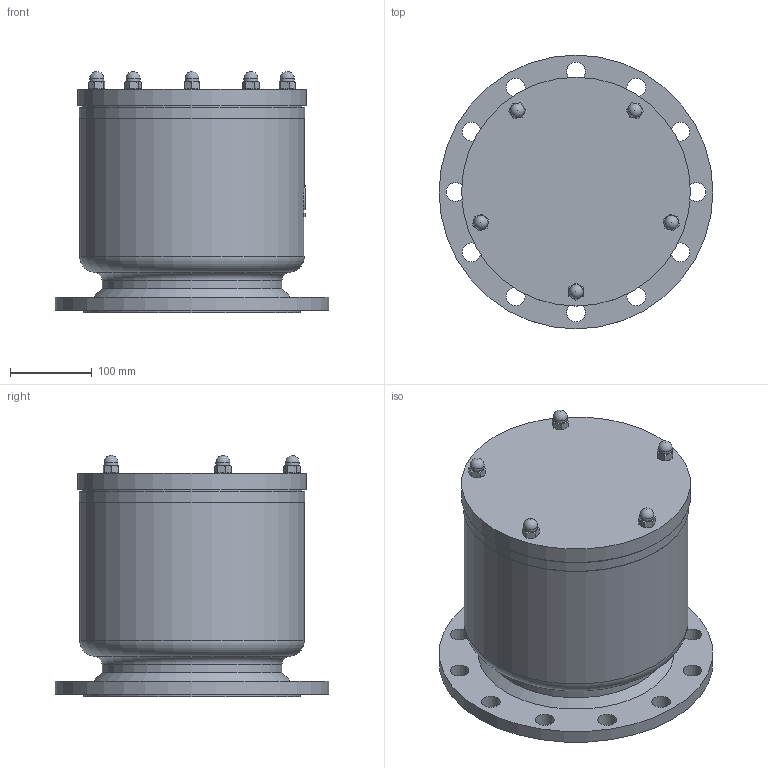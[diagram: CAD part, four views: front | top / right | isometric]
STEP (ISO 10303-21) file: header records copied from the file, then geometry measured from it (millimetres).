
FILE_DESCRIPTION(('STEP AP203'), '1');
FILE_NAME('A10F.Z DN200 PN16', '', ('UNSPECIFIED'), ('UNSPECIFIED'), 'ASCON STEP Converter 1.6', 'ASCON Math Kernel', '');
FILE_SCHEMA(('CONFIG_CONTROL_DESIGN'));
Length unit declared in the file: millimetre
Products named in the file (3): A10F.Z DN200 PN16
Assembly tree (5 placements, depth 2):
  A10F.Z DN200 PN16
    (unnamed)  x3
    (unnamed)  x2
Bounding box: 335 x 335 x 295 mm (x, y, z)
Volume: 8275373.5 mm3; surface area: 616279.2 mm2
Topology: 3 solids, 6 shells, 123 faces, 277 edges, 176 vertices
Faces by surface type: plane 58, cylinder 37, cone 21, sphere 5, torus 2
Full cylindrical faces by diameter (mm): 10.106 x5, 17 x5, 23 x12, 200 x1, 220 x1, 265 x1, 270 x1, 275 x1, 276 x1, 280 x1, 335 x1
Entity records: 6209 total; most frequent: CARTESIAN_POINT 3085, DIRECTION 435, ORIENTED_EDGE 368, AXIS2_PLACEMENT_3D 194, EDGE_LOOP 192, EDGE_CURVE 184, VERTEX_POINT 146, ADVANCED_FACE 108
